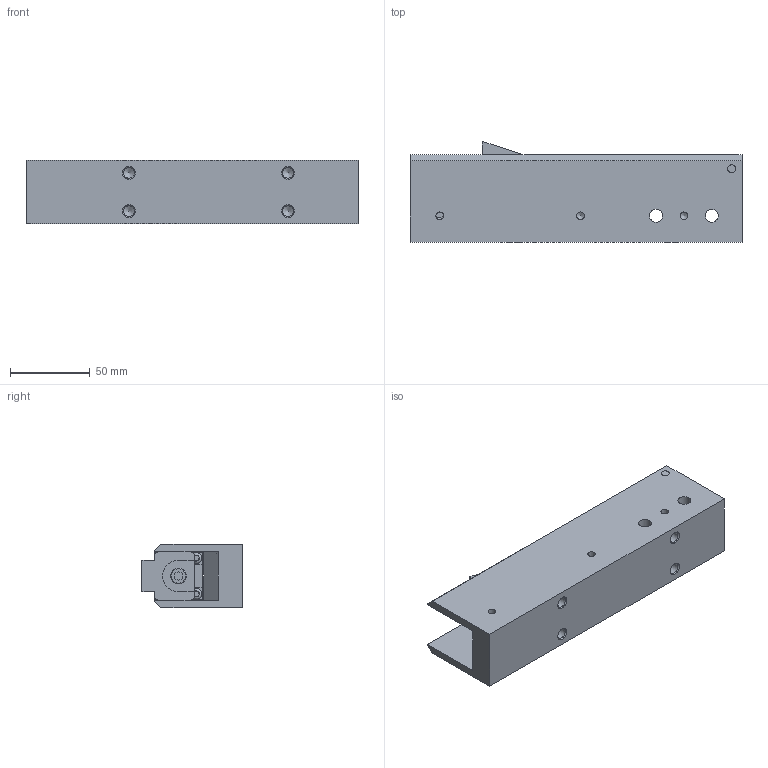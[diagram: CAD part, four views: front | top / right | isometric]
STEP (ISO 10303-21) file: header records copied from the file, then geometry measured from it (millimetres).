
FILE_DESCRIPTION (( 'STEP AP203' ), '1' );
FILE_NAME ('ASUTEC-ASB-60-EW-D08.STEP', '2017-09-13T09:18:43', ( '' ), ( '' ), 'SwSTEP 2.0', 'SolidWorks 2015', '' );
FILE_SCHEMA (( 'CONFIG_CONTROL_DESIGN' ));
Length unit declared in the file: metre
Products named in the file (1): ASUTEC-ASB-60-EW-D08
Bounding box: 208.7 x 63 x 40 mm (x, y, z)
Volume: 344598.8 mm3; surface area: 99094.1 mm2
Topology: 3 solids, 3 shells, 425 faces, 1101 edges, 733 vertices
Faces by surface type: plane 259, bspline 75, cylinder 72, cone 13, torus 6
Full cylindrical faces by diameter (mm): 2 x1, 2.9 x1, 4.2 x1, 4.8 x3, 5 x4, 5.5 x2, 6.8 x8, 8.2 x2, 10 x1, 16 x2, 25 x2
Entity records: 16985 total; most frequent: CARTESIAN_POINT 7185, ORIENTED_EDGE 2062, DIRECTION 1738, EDGE_CURVE 1031, VECTOR 720, LINE 720, VERTEX_POINT 708, EDGE_LOOP 533
